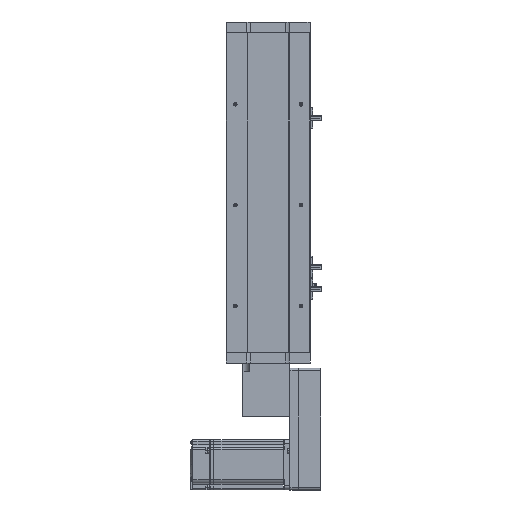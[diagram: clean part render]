
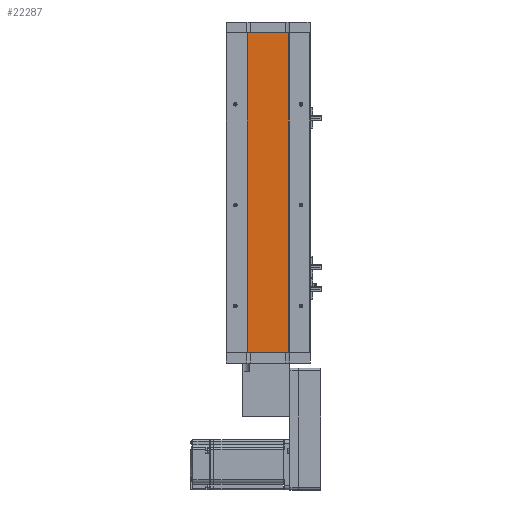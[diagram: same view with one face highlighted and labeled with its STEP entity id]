
A CAD part, left-side view. The second image highlights one B-rep face of the part: STEP entity #22287.
In plain terms, the highlighted planar face has unit normal (-1, 0, 0).
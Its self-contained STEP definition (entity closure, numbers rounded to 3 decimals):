
#4180 = CARTESIAN_POINT ( 'NONE',  ( -18.926, 24.785, 380. ) ) ;
#4782 = EDGE_CURVE ( 'NONE', #10196, #30310, #45456, .T. ) ;
#9750 = DIRECTION ( 'NONE',  ( 0., -1., 0. ) ) ;
#10183 = VECTOR ( 'NONE', #42560, 1000. ) ;
#10196 = VERTEX_POINT ( 'NONE', #54337 ) ;
#12444 = EDGE_CURVE ( 'NONE', #36448, #56027, #47441, .T. ) ;
#12981 = CARTESIAN_POINT ( 'NONE',  ( -18.926, 24.785, 0. ) ) ;
#15123 = CARTESIAN_POINT ( 'NONE',  ( -18.926, -24.785, 380. ) ) ;
#15439 = DIRECTION ( 'NONE',  ( 1., 0., 0. ) ) ;
#16733 = ORIENTED_EDGE ( 'NONE', *, *, #18790, .T. ) ;
#18790 = EDGE_CURVE ( 'NONE', #56027, #30310, #31636, .T. ) ;
#19178 = VECTOR ( 'NONE', #55061, 1000. ) ;
#19869 = DIRECTION ( 'NONE',  ( 0., 0., -1. ) ) ;
#20248 = LINE ( 'NONE', #42374, #32706 ) ;
#22076 = VECTOR ( 'NONE', #19869, 1000. ) ;
#22287 = ADVANCED_FACE ( 'NONE', ( #43980 ), #24671, .F. ) ;
#23674 = AXIS2_PLACEMENT_3D ( 'NONE', #43440, #15439, #48134 ) ;
#24671 = PLANE ( 'NONE',  #23674 ) ;
#27388 = ORIENTED_EDGE ( 'NONE', *, *, #12444, .T. ) ;
#30310 = VERTEX_POINT ( 'NONE', #34123 ) ;
#31636 = LINE ( 'NONE', #12981, #19178 ) ;
#32706 = VECTOR ( 'NONE', #9750, 1000. ) ;
#33015 = CARTESIAN_POINT ( 'NONE',  ( -18.926, 24.785, 380. ) ) ;
#34123 = CARTESIAN_POINT ( 'NONE',  ( -18.926, -24.785, 0. ) ) ;
#36448 = VERTEX_POINT ( 'NONE', #4180 ) ;
#39076 = ORIENTED_EDGE ( 'NONE', *, *, #54132, .F. ) ;
#42374 = CARTESIAN_POINT ( 'NONE',  ( -18.926, 24.785, 380. ) ) ;
#42560 = DIRECTION ( 'NONE',  ( 0., 0., -1. ) ) ;
#42955 = EDGE_LOOP ( 'NONE', ( #16733, #47575, #39076, #27388 ) ) ;
#43440 = CARTESIAN_POINT ( 'NONE',  ( -18.926, 24.785, 380. ) ) ;
#43980 = FACE_OUTER_BOUND ( 'NONE', #42955, .T. ) ;
#45456 = LINE ( 'NONE', #15123, #22076 ) ;
#46112 = CARTESIAN_POINT ( 'NONE',  ( -18.926, 24.785, 0. ) ) ;
#47441 = LINE ( 'NONE', #33015, #10183 ) ;
#47575 = ORIENTED_EDGE ( 'NONE', *, *, #4782, .F. ) ;
#48134 = DIRECTION ( 'NONE',  ( 0., 0., -1. ) ) ;
#54132 = EDGE_CURVE ( 'NONE', #36448, #10196, #20248, .T. ) ;
#54337 = CARTESIAN_POINT ( 'NONE',  ( -18.926, -24.785, 380. ) ) ;
#55061 = DIRECTION ( 'NONE',  ( 0., -1., 0. ) ) ;
#56027 = VERTEX_POINT ( 'NONE', #46112 ) ;
